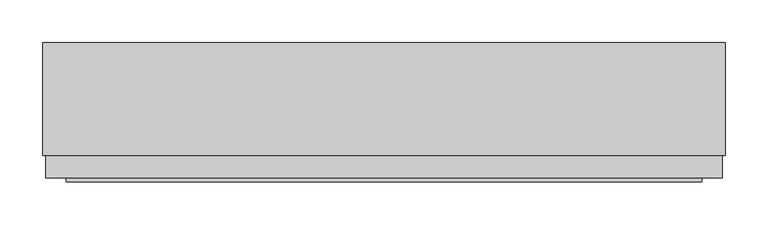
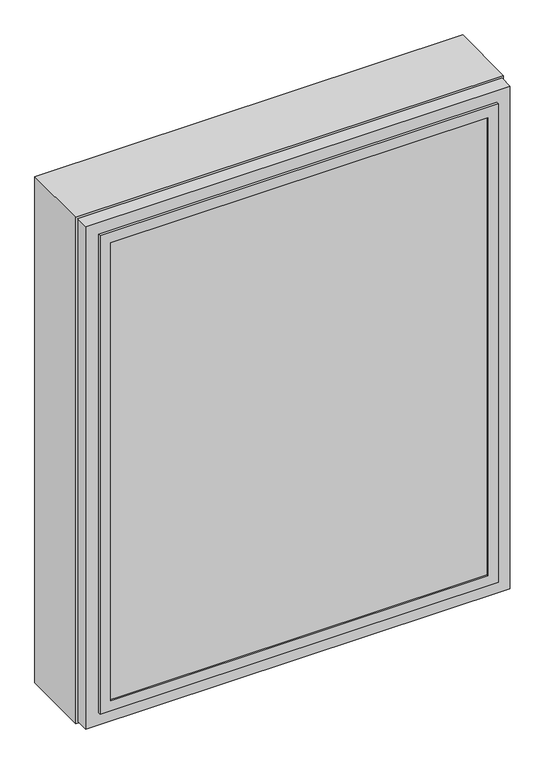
"""IFC4 building model written with IfcOpenShell, lengths in millimetres: plate geometry, SCISSOR PANEL : SCISSOR PANEL."""

from ifc_helpers import new_model, si_unit, frame, origin, place, context, project, spatial, polyline, outline, extrude, faceted_brep, source, transform, mapped, element, save


def plate_477a77dc(model_context):
    return source(origin(), model_context, "Body", "SolidModel", [
        extrude(outline(polyline([(1000.0, -400.0), (0.0, -400.0), (0.0, 400.0), (1000.0, 400.0), (1000.0, -400.0)]), holes=[polyline([(17.5, -382.5), (982.5, -382.5), (982.5, 382.5), (17.5, 382.5), (17.5, -382.5)])]), frame((0.0, -132.5, 0.0), z_axis=(0.0, 1.0, 0.0), x_axis=(0.0, 0.0, 1.0)), (0.0, 0.0, 1.0), 132.5),
        extrude(outline(polyline([(-369.5, -160.5), (-369.5, -135.5), (369.5, -135.5), (369.5, -160.5), (-369.5, -160.5)])), frame((0.0, 0.0, 30.5), z_axis=(0.0, 0.0, 1.0), x_axis=(1.0, 0.0, 0.0)), (0.0, 0.0, 1.0), 939.0),
        faceted_brep([(-352.5, -135.5, 952.5), (-352.5, -135.5, 47.5), (-352.5, -132.5, 47.5), (-352.5, -132.5, 952.5), (-369.5, -160.5, 969.5), (-369.5, -160.5, 30.5), (-369.5, -135.5, 30.5), (-369.5, -135.5, 969.5), (-352.5, -163.5, 952.5), (-352.5, -163.5, 47.5), (-352.5, -160.5, 47.5), (-352.5, -160.5, 952.5), (-372.5, -132.5, 972.5), (-372.5, -132.5, 27.5), (-372.5, -163.5, 27.5), (-372.5, -163.5, 972.5), (352.5, -135.5, 47.5), (352.5, -132.5, 47.5), (369.5, -160.5, 30.5), (369.5, -135.5, 30.5), (352.5, -163.5, 47.5), (352.5, -160.5, 47.5), (372.5, -132.5, 27.5), (372.5, -163.5, 27.5), (352.5, -135.5, 952.5), (352.5, -132.5, 952.5), (369.5, -160.5, 969.5), (369.5, -135.5, 969.5), (352.5, -163.5, 952.5), (352.5, -160.5, 952.5), (372.5, -132.5, 972.5), (372.5, -163.5, 972.5)], [[[0, 1, 2, 3]], [[4, 5, 6, 7]], [[8, 9, 10, 11]], [[12, 13, 14, 15]], [[1, 16, 17, 2]], [[5, 18, 19, 6]], [[9, 20, 21, 10]], [[13, 22, 23, 14]], [[16, 24, 25, 17]], [[18, 26, 27, 19]], [[20, 28, 29, 21]], [[22, 30, 31, 23]], [[13, 12, 30, 22], [3, 2, 17, 25]], [[24, 0, 3, 25]], [[7, 6, 19, 27], [1, 0, 24, 16]], [[26, 4, 7, 27]], [[5, 4, 26, 18], [11, 10, 21, 29]], [[28, 8, 11, 29]], [[15, 14, 23, 31], [9, 8, 28, 20]], [[30, 12, 15, 31]]]),
        faceted_brep([(-396.5, -132.5, 996.5), (-396.5, -132.5, 3.5), (-396.5, -158.75, 3.5), (-396.5, -158.75, 996.5), (-389.5, -150.0, 989.5), (-389.5, -150.0, 10.5), (-389.5, -132.5, 10.5), (-389.5, -132.5, 989.5), (-382.5, -123.75, 982.5), (-382.5, -123.75, 17.5), (-382.5, -150.0, 17.5), (-382.5, -150.0, 982.5), (-372.5, -158.75, 972.5), (-372.5, -158.75, 27.5), (-372.5, -123.75, 27.5), (-372.5, -123.75, 972.5), (396.5, -132.5, 3.5), (396.5, -158.75, 3.5), (389.5, -150.0, 10.5), (389.5, -132.5, 10.5), (382.5, -123.75, 17.5), (382.5, -150.0, 17.5), (372.5, -158.75, 27.5), (372.5, -123.75, 27.5), (396.5, -132.5, 996.5), (396.5, -158.75, 996.5), (389.5, -150.0, 989.5), (389.5, -132.5, 989.5), (382.5, -123.75, 982.5), (382.5, -150.0, 982.5), (372.5, -158.75, 972.5), (372.5, -123.75, 972.5)], [[[0, 1, 2, 3]], [[4, 5, 6, 7]], [[8, 9, 10, 11]], [[12, 13, 14, 15]], [[1, 16, 17, 2]], [[5, 18, 19, 6]], [[9, 20, 21, 10]], [[13, 22, 23, 14]], [[16, 24, 25, 17]], [[18, 26, 27, 19]], [[20, 28, 29, 21]], [[22, 30, 31, 23]], [[24, 0, 3, 25]], [[1, 0, 24, 16], [7, 6, 19, 27]], [[26, 4, 7, 27]], [[5, 4, 26, 18], [11, 10, 21, 29]], [[28, 8, 11, 29]], [[9, 8, 28, 20], [15, 14, 23, 31]], [[30, 12, 15, 31]], [[3, 2, 17, 25], [13, 12, 30, 22]]]),
        extrude(outline(polyline([(989.5, -389.5), (10.5, -389.5), (10.5, 389.5), (989.5, 389.5), (989.5, -389.5)]), holes=[polyline([(982.5, -382.5), (982.5, 382.5), (17.5, 382.5), (17.5, -382.5), (982.5, -382.5)])]), frame((0.0, -150.0, 0.0), z_axis=(0.0, 1.0, 0.0), x_axis=(0.0, 0.0, 1.0)), (0.0, 0.0, 1.0), 17.5),
    ])


if __name__ == "__main__":
    model = new_model("IFC4")
    model_context = context("Model", 3, world=origin())
    ifc_project = project(units=[si_unit("LENGTHUNIT", "METRE", prefix="MILLI")], contexts=[model_context])
    site = spatial("IfcSite", under=ifc_project)
    building = spatial("IfcBuilding", under=site)
    placement = place(None, origin())
    plate_shape = plate_477a77dc(model_context)
    element("IfcPlate", 1, ObjectType="SCISSOR PANEL : SCISSOR PANEL", at=placement, inside=building, context=model_context, shape_type="MappedRepresentation", body=[
        mapped(plate_shape, transform((0.0, 0.0, 0.0), x_axis=(1.0, 0.0, 0.0), y_axis=(0.0, 1.0, 0.0), z_axis=(0.0, 0.0, 1.0))),
    ])
    save(model, "model.ifc")
